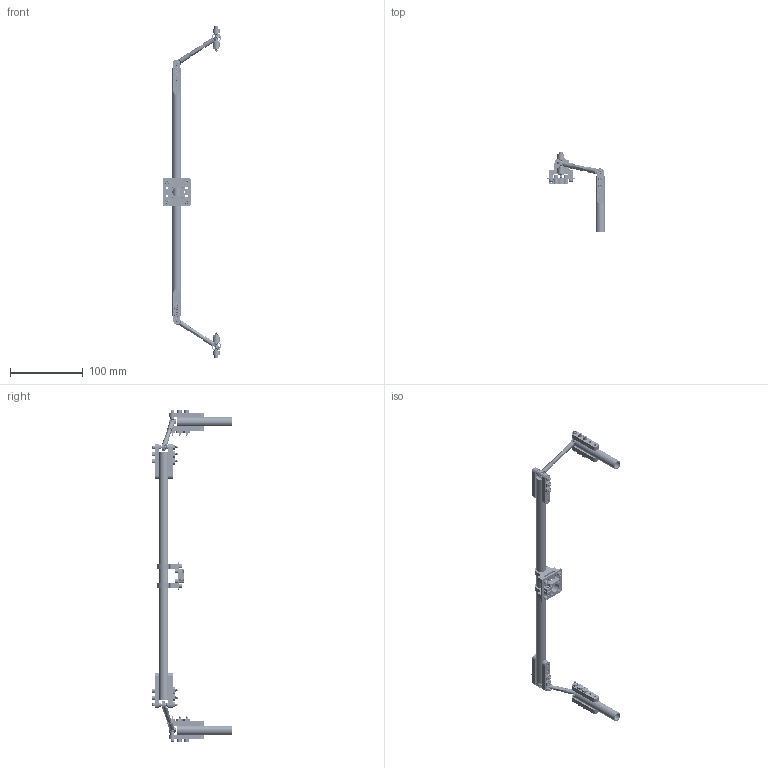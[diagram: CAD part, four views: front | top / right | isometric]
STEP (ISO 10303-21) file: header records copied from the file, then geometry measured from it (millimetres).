
FILE_DESCRIPTION (( 'STEP AP214' ), '1' );
FILE_NAME ('Differential Pivot Assembly.STEP', '2018-04-03T22:59:13', ( '' ), ( '' ), 'SwSTEP 2.0', 'SolidWorks 2016', '' );
FILE_SCHEMA (( 'AUTOMOTIVE_DESIGN' ));
Length unit declared in the file: inch
Products named in the file (22): hex_nut_#4-40; 13.5 Inch Aluminum Rod; Ball bearing; hex_nut_#6-32; Diff Pivot Swivel; 6-32_SHCS_6-32 SHCS X 1.250; Diff Pivot Top; 3 inch Aluminum Rod; 6-32_SHCS_6-32 SHCS X .250; Turnbuckle Eyes; 4-40 Washer; 585546; 5 Hole Aluminum Beam; Turnbuckle screw; Differential Pivot Assembly; Turnbuckle; 4-40_SHCS_4-40 SHCS X 1.250; 545600; 0.5 Bore Side Tapped Clamping Hub; Diff Pivot Bottom; 1 Hole Pattern Bracket; 0.5 Bore Bottom Tapped Clamping Mount
Assembly tree (70 placements, depth 4):
  Differential Pivot Assembly
    Diff Pivot Bottom  x2
      3 inch Aluminum Rod
      5 Hole Aluminum Beam
      4-40 Washer
      4-40_SHCS_4-40 SHCS X 1.250
      6-32_SHCS_6-32 SHCS X 1.250
      hex_nut_#4-40
      hex_nut_#6-32
      Ball bearing
    Diff Pivot Top
      13.5 Inch Aluminum Rod
      5 Hole Aluminum Beam  x4
      6-32_SHCS_6-32 SHCS X 1.250  x4
      4-40_SHCS_4-40 SHCS X 1.250  x2
      4-40 Washer  x12
      hex_nut_#6-32  x4
      hex_nut_#4-40  x2
      Ball bearing  x2
    Turnbuckle  x2
      Turnbuckle Eyes
      Turnbuckle screw
    Diff Pivot Swivel
      0.5 Bore Bottom Tapped Clamping Mount  x2
        585546
      1 Hole Pattern Bracket
      0.5 Bore Side Tapped Clamping Hub
        545600
      6-32_SHCS_6-32 SHCS X .250  x8
Bounding box: 79.79 x 110.21 x 457.37 mm (x, y, z)
Volume: 78179.4 mm3; surface area: 74730.1 mm2
Topology: 81 solids, 81 shells, 4587 faces, 12489 edges, 8021 vertices
Faces by surface type: cylinder 3320, cone 617, plane 578, bspline 64, torus 8
Entity records: 64010 total; most frequent: CARTESIAN_POINT 37408, ORIENTED_EDGE 6352, DIRECTION 4532, EDGE_CURVE 3176, VERTEX_POINT 2051, AXIS2_PLACEMENT_3D 1693, EDGE_LOOP 1229, VECTOR 1146
